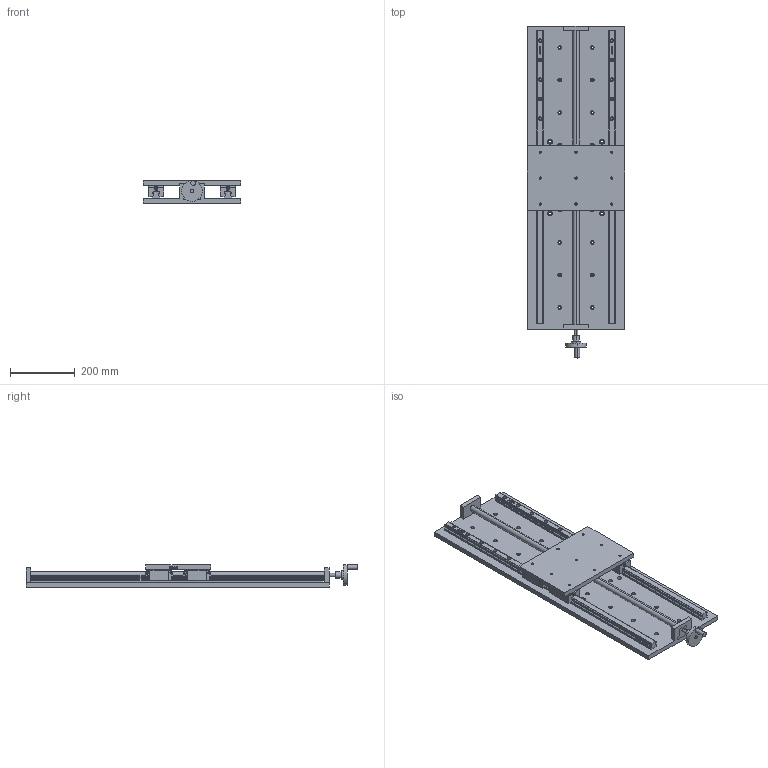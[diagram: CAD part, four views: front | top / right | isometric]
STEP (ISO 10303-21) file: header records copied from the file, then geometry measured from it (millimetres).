
FILE_DESCRIPTION (( 'STEP AP214' ), '1' );
FILE_NAME ('PT300-700.STEP', '2022-09-18T06:12:09', ( '' ), ( '' ), 'SwSTEP 2.0', 'SolidWorks 2017', '' );
FILE_SCHEMA (( 'AUTOMOTIVE_DESIGN' ));
Length unit declared in the file: millimetre
Products named in the file (12): PT300-700; 忒謫; 醱啣; 標踡; HGR25_temp-700; 標踡輸; 34320001; HGH25C__X2_53F35C01_X0__temp; HGH25C__X2_5DE65C01_X0__temp; M6H; HGH25CA2R300Z0C_GW202204023669; 菁啣-700
Assembly tree (12 placements, depth 3):
  PT300-700
    菁啣-700
    醱啣
    HGH25CA2R300Z0C_GW202204023669  x2
      HGR25_temp-700
      HGH25C__X2_53F35C01_X0__temp
      M6H
      HGH25C__X2_5DE65C01_X0__temp
      34320001
    標踡
      標踡輸
      忒謫
Bounding box: 300 x 1022.1 x 70.06 mm (x, y, z)
Volume: 6696339.6 mm3; surface area: 1123017.2 mm2
Topology: 31 solids, 33 shells, 3059 faces, 8566 edges, 5654 vertices
Faces by surface type: plane 1995, cylinder 798, bspline 202, cone 56, torus 8
Entity records: 74505 total; most frequent: CARTESIAN_POINT 14956, ORIENTED_EDGE 9472, DIRECTION 8580, EDGE_CURVE 4736, VECTOR 3422, LINE 3422, VERTEX_POINT 3143, AXIS2_PLACEMENT_3D 2579
